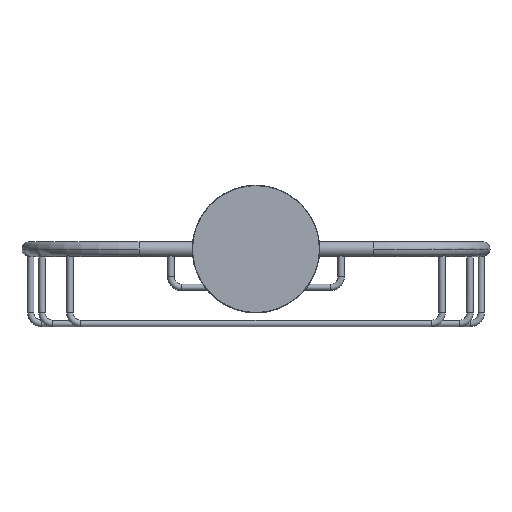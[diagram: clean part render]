
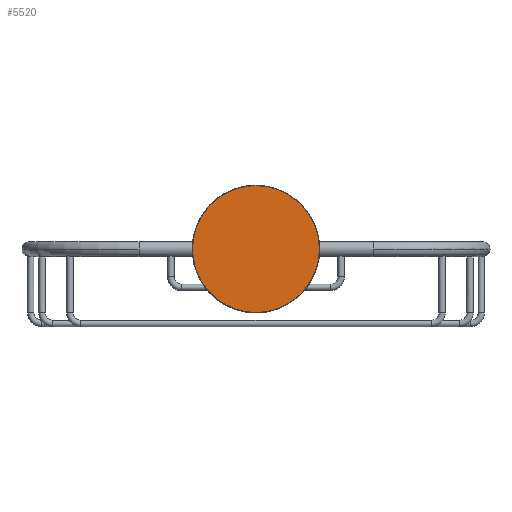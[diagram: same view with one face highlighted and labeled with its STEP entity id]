
A CAD part, front view. The second image highlights one B-rep face of the part: STEP entity #5520.
In plain terms, the highlighted planar face has unit normal (0, -1, 0).
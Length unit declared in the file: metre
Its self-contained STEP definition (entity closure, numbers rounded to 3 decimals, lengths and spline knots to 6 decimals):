
#62=EDGE_CURVE('',#63,#65,#67,.F.);
#63=VERTEX_POINT('',#64);
#64=CARTESIAN_POINT('',(0.0,-0.014,-0.0298));
#65=VERTEX_POINT('',#66);
#66=CARTESIAN_POINT('',(0.0,-0.014,0.0298));
#67=CIRCLE('',#68,0.0298);
#68=AXIS2_PLACEMENT_3D('',#69,#70,#71);
#69=CARTESIAN_POINT('',(0.0,-0.014,0.0));
#70=DIRECTION('',(0.0,1.0,0.0));
#71=DIRECTION('',(0.0,0.0,1.0));
#5520=ADVANCED_FACE('',(#5526),#5521,.F.);
#5521=PLANE('',#5522);
#5522=AXIS2_PLACEMENT_3D('',#5523,#5524,#5525);
#5523=CARTESIAN_POINT('',(0.0,-0.014,0.03));
#5524=DIRECTION('',(0.0,1.0,0.0));
#5525=DIRECTION('',(0.0,0.0,1.0));
#5526=FACE_OUTER_BOUND('',#5527,.T.);
#5527=EDGE_LOOP('',(#5528,#5536));
#5528=ORIENTED_EDGE('',*,*,#5530,.T.);
#5529=CARTESIAN_POINT('',(0.0,-0.014,-0.0298));
#5530=EDGE_CURVE('',#65,#63,#5531,.F.);
#5531=(B_SPLINE_CURVE(3,(#5529,#5532,#5533,#5534),.UNSPECIFIED.,.F.,.U.)B_SPLINE_CURVE_WITH_KNOTS(
  (4,4),(0.0,1.0),.UNSPECIFIED.)BOUNDED_CURVE()CURVE()GEOMETRIC_REPRESENTATION_ITEM(
  )RATIONAL_B_SPLINE_CURVE((1.0,0.333,0.333,1.0)
  )REPRESENTATION_ITEM(''));
#5532=CARTESIAN_POINT('',(-0.0596,-0.014,-0.0298));
#5533=CARTESIAN_POINT('',(-0.0596,-0.014,0.0298));
#5534=CARTESIAN_POINT('',(0.0,-0.014,0.0298));
#5536=ORIENTED_EDGE('',*,*,#62,.T.);
